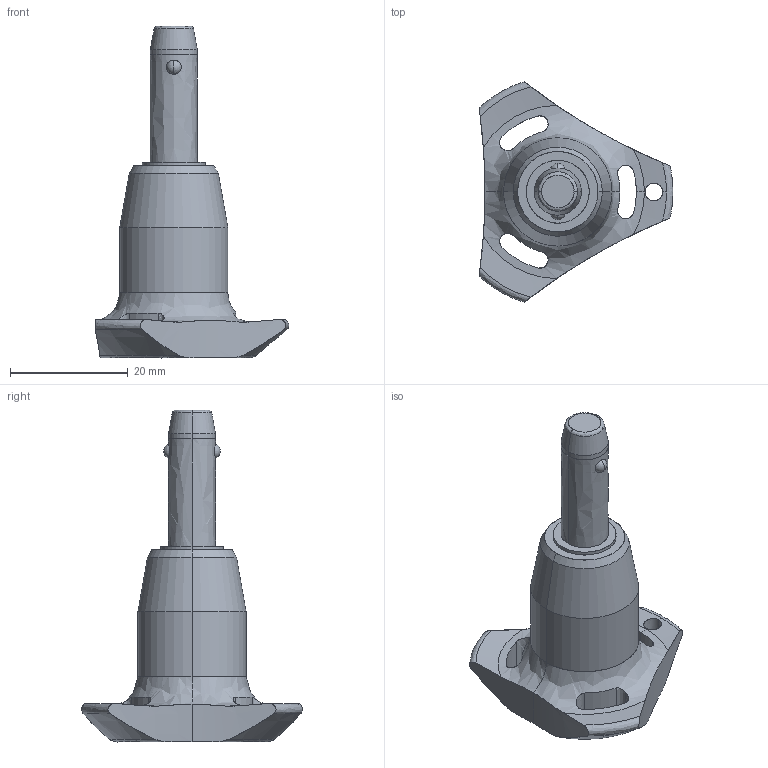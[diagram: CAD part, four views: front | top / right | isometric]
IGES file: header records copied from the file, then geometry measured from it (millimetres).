
Start section: SolidWorks IGES file using analytic representation for surfaces
Global section: file name: C:\Users\ianosborn\Desktop\QR1726_v2\QR1726_v2_20251115_IGES\QR1726.M08-015-T.igs; native system: SolidWorks 2019; preprocessor: SolidWorks 2019; author: IanOsborn; date: 251113.110518; units: millimetre
Bounding box: 33 x 37.51 x 56.5 mm (x, y, z)
Surface area: 4360.9 mm2 (no closed solid volume)
Topology: 0 solids, 0 shells, 68 faces, 1344 edges, 1337 vertices
Faces by surface type: revolution 52, bspline 16
